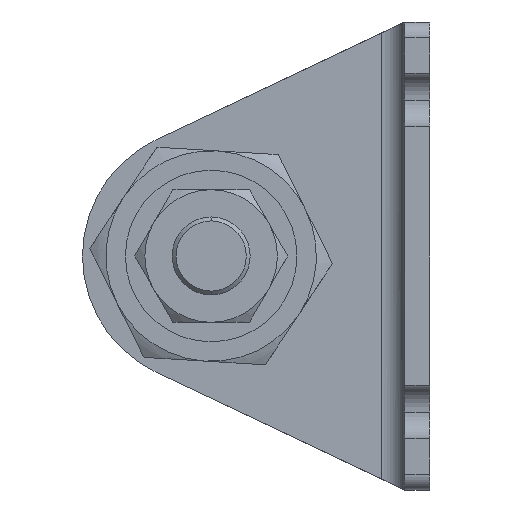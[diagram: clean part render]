
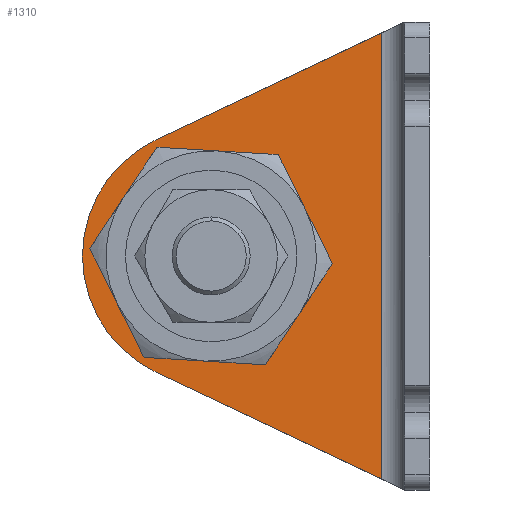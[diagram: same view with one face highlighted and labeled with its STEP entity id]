
A CAD part, left-side view. The second image highlights one B-rep face of the part: STEP entity #1310.
In plain terms, the highlighted planar face has unit normal (-1, 0, 0) as drawn and (1, 0, 0) by its records, which use the part's own axes.
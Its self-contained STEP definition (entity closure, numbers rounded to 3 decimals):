
#188 = ORIENTED_EDGE ( 'NONE', *, *, #1833, .F. ) ;
#202 = CARTESIAN_POINT ( 'NONE',  ( 3.2, 6.2, -58.579 ) ) ;
#263 = DIRECTION ( 'NONE',  ( 1., 0., 0. ) ) ;
#290 = ORIENTED_EDGE ( 'NONE', *, *, #2273, .F. ) ;
#296 = VERTEX_POINT ( 'NONE', #862 ) ;
#371 = LINE ( 'NONE', #2346, #1388 ) ;
#449 = EDGE_CURVE ( 'NONE', #2738, #2256, #371, .T. ) ;
#469 = CARTESIAN_POINT ( 'NONE',  ( 3.2, 26.408, -10.99 ) ) ;
#620 = CIRCLE ( 'NONE', #3699, 11.5 ) ;
#733 = AXIS2_PLACEMENT_3D ( 'NONE', #745, #3446, #2886 ) ;
#745 = CARTESIAN_POINT ( 'NONE',  ( 3.2, 28., -30. ) ) ;
#790 = AXIS2_PLACEMENT_3D ( 'NONE', #1081, #3192, #3484 ) ;
#846 = EDGE_LOOP ( 'NONE', ( #290, #3896 ) ) ;
#857 = LINE ( 'NONE', #469, #2565 ) ;
#860 = CARTESIAN_POINT ( 'NONE',  ( 3.2, 28., -30. ) ) ;
#862 = CARTESIAN_POINT ( 'NONE',  ( 3.2, 35.062, -15.087 ) ) ;
#903 = CIRCLE ( 'NONE', #733, 16.5 ) ;
#1076 = DIRECTION ( 'NONE',  ( 0., 0., -1. ) ) ;
#1081 = CARTESIAN_POINT ( 'NONE',  ( 3.2, 28., -30. ) ) ;
#1144 = DIRECTION ( 'NONE',  ( 0., 0.904, 0.428 ) ) ;
#1260 = VERTEX_POINT ( 'NONE', #1754 ) ;
#1310 = ADVANCED_FACE ( 'NONE', ( #1831, #2889 ), #3005, .T. ) ;
#1388 = VECTOR ( 'NONE', #1076, 1000. ) ;
#1466 = DIRECTION ( 'NONE',  ( 1., 0., 0. ) ) ;
#1587 = ORIENTED_EDGE ( 'NONE', *, *, #449, .T. ) ;
#1754 = CARTESIAN_POINT ( 'NONE',  ( 3.2, 16.5, -30. ) ) ;
#1760 = VERTEX_POINT ( 'NONE', #2928 ) ;
#1831 = FACE_OUTER_BOUND ( 'NONE', #2236, .T. ) ;
#1833 = EDGE_CURVE ( 'NONE', #2738, #296, #857, .T. ) ;
#1880 = EDGE_CURVE ( 'NONE', #2256, #3113, #2013, .T. ) ;
#1941 = CARTESIAN_POINT ( 'NONE',  ( 3.2, 6.2, -1.421 ) ) ;
#2013 = LINE ( 'NONE', #3594, #3172 ) ;
#2027 = DIRECTION ( 'NONE',  ( 0., 0.904, -0.428 ) ) ;
#2204 = EDGE_CURVE ( 'NONE', #3113, #2680, #903, .T. ) ;
#2214 = CARTESIAN_POINT ( 'NONE',  ( 3.2, 35.062, -44.913 ) ) ;
#2236 = EDGE_LOOP ( 'NONE', ( #188, #1587, #3051, #3004, #2805 ) ) ;
#2256 = VERTEX_POINT ( 'NONE', #202 ) ;
#2273 = EDGE_CURVE ( 'NONE', #1760, #1260, #3730, .T. ) ;
#2346 = CARTESIAN_POINT ( 'NONE',  ( 3.2, 6.2, -60. ) ) ;
#2565 = VECTOR ( 'NONE', #2027, 1000. ) ;
#2632 = DIRECTION ( 'NONE',  ( 1., 0., 0. ) ) ;
#2670 = CIRCLE ( 'NONE', #2969, 16.5 ) ;
#2680 = VERTEX_POINT ( 'NONE', #3393 ) ;
#2738 = VERTEX_POINT ( 'NONE', #1941 ) ;
#2805 = ORIENTED_EDGE ( 'NONE', *, *, #3059, .T. ) ;
#2886 = DIRECTION ( 'NONE',  ( 0., 1., 0. ) ) ;
#2889 = FACE_BOUND ( 'NONE', #846, .T. ) ;
#2928 = CARTESIAN_POINT ( 'NONE',  ( 3.2, 39.5, -30. ) ) ;
#2969 = AXIS2_PLACEMENT_3D ( 'NONE', #860, #1466, #2976 ) ;
#2976 = DIRECTION ( 'NONE',  ( 0., 1., 0. ) ) ;
#3004 = ORIENTED_EDGE ( 'NONE', *, *, #2204, .T. ) ;
#3005 = PLANE ( 'NONE',  #3475 ) ;
#3051 = ORIENTED_EDGE ( 'NONE', *, *, #1880, .T. ) ;
#3059 = EDGE_CURVE ( 'NONE', #2680, #296, #2670, .T. ) ;
#3113 = VERTEX_POINT ( 'NONE', #2214 ) ;
#3172 = VECTOR ( 'NONE', #1144, 1000. ) ;
#3192 = DIRECTION ( 'NONE',  ( 1., 0., 0. ) ) ;
#3209 = DIRECTION ( 'NONE',  ( 0., 1., 0. ) ) ;
#3288 = EDGE_CURVE ( 'NONE', #1260, #1760, #620, .T. ) ;
#3393 = CARTESIAN_POINT ( 'NONE',  ( 3.2, 44.5, -30. ) ) ;
#3446 = DIRECTION ( 'NONE',  ( 1., 0., 0. ) ) ;
#3475 = AXIS2_PLACEMENT_3D ( 'NONE', #3882, #263, #3596 ) ;
#3484 = DIRECTION ( 'NONE',  ( 0., 1., 0. ) ) ;
#3501 = CARTESIAN_POINT ( 'NONE',  ( 3.2, 28., -30. ) ) ;
#3594 = CARTESIAN_POINT ( 'NONE',  ( 3.2, 3.2, -60. ) ) ;
#3596 = DIRECTION ( 'NONE',  ( 0., 1., 0. ) ) ;
#3699 = AXIS2_PLACEMENT_3D ( 'NONE', #3501, #2632, #3209 ) ;
#3730 = CIRCLE ( 'NONE', #790, 11.5 ) ;
#3882 = CARTESIAN_POINT ( 'NONE',  ( 3.2, 3.2, -60. ) ) ;
#3896 = ORIENTED_EDGE ( 'NONE', *, *, #3288, .F. ) ;
